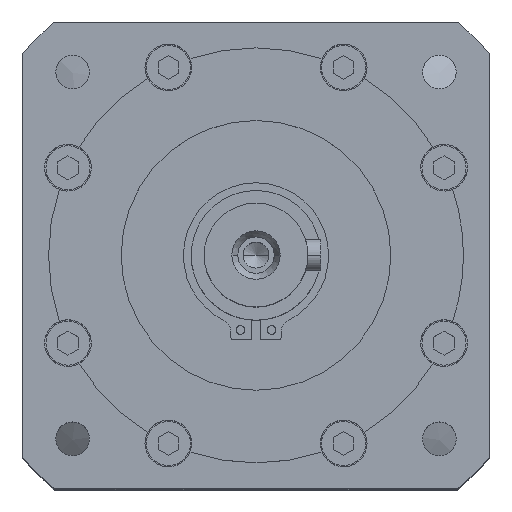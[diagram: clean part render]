
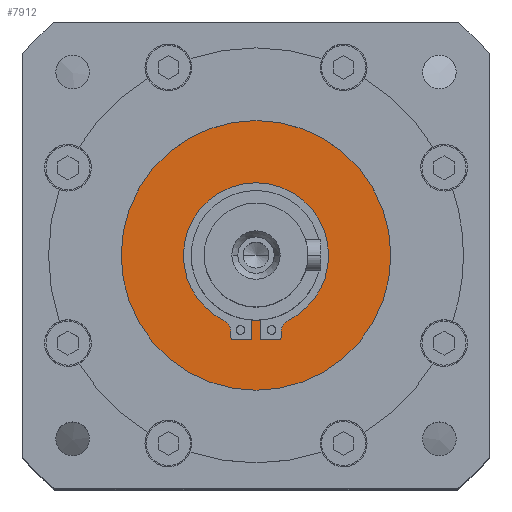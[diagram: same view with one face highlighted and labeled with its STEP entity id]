
A CAD part, top view. The second image highlights one B-rep face of the part: STEP entity #7912.
In plain terms, the highlighted planar face has unit normal (0, 0, 1).
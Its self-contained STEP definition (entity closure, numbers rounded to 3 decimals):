
#246 = AXIS2_PLACEMENT_3D ( 'NONE', #27081, #12896, #29451 ) ;
#822 = LINE ( 'NONE', #18458, #13354 ) ;
#1005 = VERTEX_POINT ( 'NONE', #2265 ) ;
#1157 = CARTESIAN_POINT ( 'NONE',  ( 0., 0., -2.5 ) ) ;
#1570 = ORIENTED_EDGE ( 'NONE', *, *, #28266, .F. ) ;
#1572 = LINE ( 'NONE', #7457, #14098 ) ;
#1585 = EDGE_CURVE ( 'NONE', #27030, #27708, #8052, .T. ) ;
#1617 = ORIENTED_EDGE ( 'NONE', *, *, #2066, .F. ) ;
#1794 = VERTEX_POINT ( 'NONE', #19623 ) ;
#1815 = VECTOR ( 'NONE', #18117, 1000. ) ;
#2066 = EDGE_CURVE ( 'NONE', #13562, #14224, #28869, .T. ) ;
#2168 = CARTESIAN_POINT ( 'NONE',  ( -26., 0., -2.5 ) ) ;
#2210 = CIRCLE ( 'NONE', #12036, 26. ) ;
#2265 = CARTESIAN_POINT ( 'NONE',  ( 4.85, -15.771, -2.5 ) ) ;
#2633 = CARTESIAN_POINT ( 'NONE',  ( 0., -16.271, -2.5 ) ) ;
#3029 = CIRCLE ( 'NONE', #18931, 2.5 ) ;
#3555 = DIRECTION ( 'NONE',  ( 1., 0., 0. ) ) ;
#3719 = ORIENTED_EDGE ( 'NONE', *, *, #1585, .F. ) ;
#3804 = CIRCLE ( 'NONE', #11369, 2.5 ) ;
#3833 = VERTEX_POINT ( 'NONE', #10102 ) ;
#3981 = CARTESIAN_POINT ( 'NONE',  ( 4.85, -14.773, -2.5 ) ) ;
#4248 = VERTEX_POINT ( 'NONE', #29638 ) ;
#4353 = CARTESIAN_POINT ( 'NONE',  ( 4.35, -15.771, -2.5 ) ) ;
#4509 = CARTESIAN_POINT ( 'NONE',  ( -4.35, -16.271, -2.5 ) ) ;
#5640 = CARTESIAN_POINT ( 'NONE',  ( 4.85, 0., -2.5 ) ) ;
#5664 = CARTESIAN_POINT ( 'NONE',  ( 0.85, -12.471, -2.5 ) ) ;
#5723 = ORIENTED_EDGE ( 'NONE', *, *, #13296, .F. ) ;
#5786 = CARTESIAN_POINT ( 'NONE',  ( -0.85, -16.271, -2.5 ) ) ;
#6090 = CIRCLE ( 'NONE', #18523, 14. ) ;
#6095 = CARTESIAN_POINT ( 'NONE',  ( 0., 0., -2.5 ) ) ;
#6695 = DIRECTION ( 'NONE',  ( -1., 0., 0. ) ) ;
#7307 = DIRECTION ( 'NONE',  ( 0., 0., 1. ) ) ;
#7308 = EDGE_CURVE ( 'NONE', #1794, #27030, #3804, .T. ) ;
#7457 = CARTESIAN_POINT ( 'NONE',  ( 0., -16.271, -2.5 ) ) ;
#7745 = CARTESIAN_POINT ( 'NONE',  ( 0., 0., -2.5 ) ) ;
#7750 = CARTESIAN_POINT ( 'NONE',  ( -0.85, -12.471, -2.5 ) ) ;
#7912 = ADVANCED_FACE ( 'NONE', ( #20670, #14371 ), #8373, .F. ) ;
#7988 = ORIENTED_EDGE ( 'NONE', *, *, #9676, .F. ) ;
#8052 = LINE ( 'NONE', #29903, #1815 ) ;
#8270 = EDGE_CURVE ( 'NONE', #21429, #21501, #2210, .T. ) ;
#8373 = PLANE ( 'NONE',  #10037 ) ;
#8458 = DIRECTION ( 'NONE',  ( -1., 0., 0. ) ) ;
#8843 = AXIS2_PLACEMENT_3D ( 'NONE', #7745, #24207, #10100 ) ;
#8888 = AXIS2_PLACEMENT_3D ( 'NONE', #24653, #10531, #27066 ) ;
#9034 = CIRCLE ( 'NONE', #246, 26. ) ;
#9158 = DIRECTION ( 'NONE',  ( 0., 0., -1. ) ) ;
#9231 = CARTESIAN_POINT ( 'NONE',  ( 0., 0., -2.5 ) ) ;
#9557 = CARTESIAN_POINT ( 'NONE',  ( 26., 0., -2.5 ) ) ;
#9676 = EDGE_CURVE ( 'NONE', #14224, #22604, #24143, .T. ) ;
#9901 = EDGE_CURVE ( 'NONE', #3833, #1794, #6090, .T. ) ;
#10037 = AXIS2_PLACEMENT_3D ( 'NONE', #6095, #22560, #8458 ) ;
#10060 = ORIENTED_EDGE ( 'NONE', *, *, #27603, .F. ) ;
#10100 = DIRECTION ( 'NONE',  ( -1., 0., 0. ) ) ;
#10102 = CARTESIAN_POINT ( 'NONE',  ( -14., 0., -2.5 ) ) ;
#10434 = LINE ( 'NONE', #2633, #16734 ) ;
#10472 = LINE ( 'NONE', #5640, #22264 ) ;
#10531 = DIRECTION ( 'NONE',  ( 0., 0., 1. ) ) ;
#10667 = CARTESIAN_POINT ( 'NONE',  ( -4.85, -15.771, -2.5 ) ) ;
#10800 = DIRECTION ( 'NONE',  ( 0., 0., 1. ) ) ;
#11224 = EDGE_CURVE ( 'NONE', #29131, #13562, #1572, .T. ) ;
#11369 = AXIS2_PLACEMENT_3D ( 'NONE', #23249, #9158, #25634 ) ;
#11587 = DIRECTION ( 'NONE',  ( -1., 0., 0. ) ) ;
#11960 = VERTEX_POINT ( 'NONE', #30576 ) ;
#12036 = AXIS2_PLACEMENT_3D ( 'NONE', #1157, #17641, #3555 ) ;
#12081 = DIRECTION ( 'NONE',  ( 1., 0., 0. ) ) ;
#12896 = DIRECTION ( 'NONE',  ( 0., 0., 1. ) ) ;
#13036 = CIRCLE ( 'NONE', #14095, 14. ) ;
#13135 = EDGE_CURVE ( 'NONE', #4248, #29070, #13036, .T. ) ;
#13245 = ORIENTED_EDGE ( 'NONE', *, *, #8270, .T. ) ;
#13296 = EDGE_CURVE ( 'NONE', #11960, #21567, #10434, .T. ) ;
#13319 = CARTESIAN_POINT ( 'NONE',  ( 14., 0., -2.5 ) ) ;
#13354 = VECTOR ( 'NONE', #20850, 1000. ) ;
#13562 = VERTEX_POINT ( 'NONE', #5786 ) ;
#13584 = EDGE_LOOP ( 'NONE', ( #29971, #13245 ) ) ;
#13630 = EDGE_CURVE ( 'NONE', #22604, #11960, #822, .T. ) ;
#13718 = EDGE_LOOP ( 'NONE', ( #16357, #1570, #3719, #16423, #19032, #15657, #25806, #20342, #10060, #20478, #5723, #21596, #7988, #1617 ) ) ;
#13864 = DIRECTION ( 'NONE',  ( 0., 0., -1. ) ) ;
#14095 = AXIS2_PLACEMENT_3D ( 'NONE', #9231, #25712, #11587 ) ;
#14098 = VECTOR ( 'NONE', #12081, 1000. ) ;
#14224 = VERTEX_POINT ( 'NONE', #7750 ) ;
#14371 = FACE_OUTER_BOUND ( 'NONE', #13584, .T. ) ;
#15657 = ORIENTED_EDGE ( 'NONE', *, *, #20688, .F. ) ;
#16357 = ORIENTED_EDGE ( 'NONE', *, *, #11224, .F. ) ;
#16423 = ORIENTED_EDGE ( 'NONE', *, *, #7308, .F. ) ;
#16718 = DIRECTION ( 'NONE',  ( 1., 0., 0. ) ) ;
#16734 = VECTOR ( 'NONE', #16718, 1000. ) ;
#17641 = DIRECTION ( 'NONE',  ( 0., 0., 1. ) ) ;
#18117 = DIRECTION ( 'NONE',  ( 0., -1., 0. ) ) ;
#18257 = CARTESIAN_POINT ( 'NONE',  ( -0.85, 0., -2.5 ) ) ;
#18458 = CARTESIAN_POINT ( 'NONE',  ( 0.85, 0., -2.5 ) ) ;
#18523 = AXIS2_PLACEMENT_3D ( 'NONE', #21434, #7307, #23771 ) ;
#18931 = AXIS2_PLACEMENT_3D ( 'NONE', #28018, #13864, #30388 ) ;
#19032 = ORIENTED_EDGE ( 'NONE', *, *, #9901, .F. ) ;
#19353 = CARTESIAN_POINT ( 'NONE',  ( -4.85, -14.773, -2.5 ) ) ;
#19623 = CARTESIAN_POINT ( 'NONE',  ( -6.236, -12.534, -2.5 ) ) ;
#20342 = ORIENTED_EDGE ( 'NONE', *, *, #21798, .F. ) ;
#20349 = AXIS2_PLACEMENT_3D ( 'NONE', #4353, #20833, #6695 ) ;
#20478 = ORIENTED_EDGE ( 'NONE', *, *, #25580, .F. ) ;
#20670 = FACE_BOUND ( 'NONE', #13718, .T. ) ;
#20688 = EDGE_CURVE ( 'NONE', #29070, #3833, #30125, .T. ) ;
#20833 = DIRECTION ( 'NONE',  ( 0., 0., 1. ) ) ;
#20850 = DIRECTION ( 'NONE',  ( 0., -1., 0. ) ) ;
#21429 = VERTEX_POINT ( 'NONE', #2168 ) ;
#21434 = CARTESIAN_POINT ( 'NONE',  ( 0., 0., -2.5 ) ) ;
#21501 = VERTEX_POINT ( 'NONE', #9557 ) ;
#21567 = VERTEX_POINT ( 'NONE', #29043 ) ;
#21596 = ORIENTED_EDGE ( 'NONE', *, *, #13630, .F. ) ;
#21798 = EDGE_CURVE ( 'NONE', #26381, #4248, #3029, .T. ) ;
#22264 = VECTOR ( 'NONE', #24466, 1000. ) ;
#22481 = CIRCLE ( 'NONE', #20349, 0.5 ) ;
#22560 = DIRECTION ( 'NONE',  ( 0., 0., -1. ) ) ;
#22604 = VERTEX_POINT ( 'NONE', #5664 ) ;
#23249 = CARTESIAN_POINT ( 'NONE',  ( -7.35, -14.773, -2.5 ) ) ;
#23329 = CIRCLE ( 'NONE', #8888, 0.5 ) ;
#23771 = DIRECTION ( 'NONE',  ( -1., 0., 0. ) ) ;
#24143 = CIRCLE ( 'NONE', #27939, 12.5 ) ;
#24207 = DIRECTION ( 'NONE',  ( 0., 0., 1. ) ) ;
#24466 = DIRECTION ( 'NONE',  ( 0., 1., 0. ) ) ;
#24653 = CARTESIAN_POINT ( 'NONE',  ( -4.35, -15.771, -2.5 ) ) ;
#24919 = CARTESIAN_POINT ( 'NONE',  ( 0., 0., -2.5 ) ) ;
#25580 = EDGE_CURVE ( 'NONE', #21567, #1005, #22481, .T. ) ;
#25634 = DIRECTION ( 'NONE',  ( -1., 0., 0. ) ) ;
#25712 = DIRECTION ( 'NONE',  ( 0., 0., 1. ) ) ;
#25806 = ORIENTED_EDGE ( 'NONE', *, *, #13135, .F. ) ;
#26381 = VERTEX_POINT ( 'NONE', #3981 ) ;
#27030 = VERTEX_POINT ( 'NONE', #19353 ) ;
#27066 = DIRECTION ( 'NONE',  ( -1., 0., 0. ) ) ;
#27081 = CARTESIAN_POINT ( 'NONE',  ( 0., 0., -2.5 ) ) ;
#27329 = DIRECTION ( 'NONE',  ( -1., 0., 0. ) ) ;
#27603 = EDGE_CURVE ( 'NONE', #1005, #26381, #10472, .T. ) ;
#27708 = VERTEX_POINT ( 'NONE', #10667 ) ;
#27759 = DIRECTION ( 'NONE',  ( 0., 1., 0. ) ) ;
#27939 = AXIS2_PLACEMENT_3D ( 'NONE', #24919, #10800, #27329 ) ;
#28018 = CARTESIAN_POINT ( 'NONE',  ( 7.35, -14.773, -2.5 ) ) ;
#28146 = VECTOR ( 'NONE', #27759, 1000. ) ;
#28266 = EDGE_CURVE ( 'NONE', #27708, #29131, #23329, .T. ) ;
#28869 = LINE ( 'NONE', #18257, #28146 ) ;
#29043 = CARTESIAN_POINT ( 'NONE',  ( 4.35, -16.271, -2.5 ) ) ;
#29070 = VERTEX_POINT ( 'NONE', #13319 ) ;
#29131 = VERTEX_POINT ( 'NONE', #4509 ) ;
#29451 = DIRECTION ( 'NONE',  ( 1., 0., 0. ) ) ;
#29638 = CARTESIAN_POINT ( 'NONE',  ( 6.236, -12.534, -2.5 ) ) ;
#29903 = CARTESIAN_POINT ( 'NONE',  ( -4.85, 0., -2.5 ) ) ;
#29971 = ORIENTED_EDGE ( 'NONE', *, *, #30410, .T. ) ;
#30125 = CIRCLE ( 'NONE', #8843, 14. ) ;
#30388 = DIRECTION ( 'NONE',  ( -1., 0., 0. ) ) ;
#30410 = EDGE_CURVE ( 'NONE', #21501, #21429, #9034, .T. ) ;
#30576 = CARTESIAN_POINT ( 'NONE',  ( 0.85, -16.271, -2.5 ) ) ;
